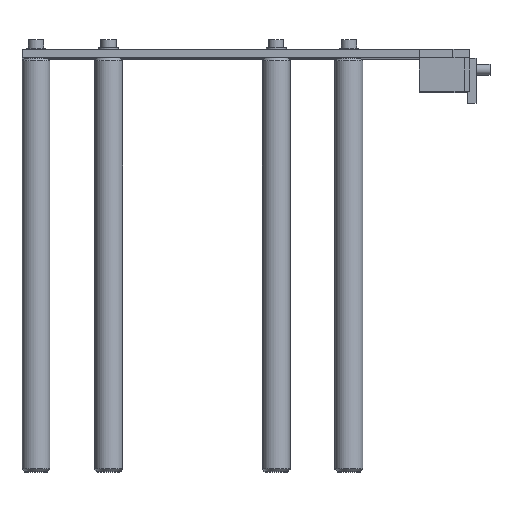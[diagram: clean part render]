
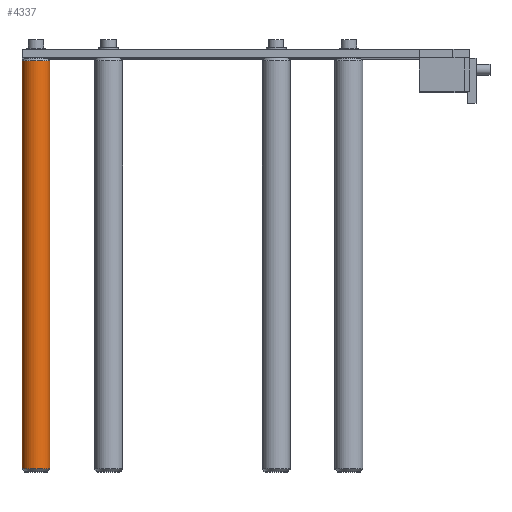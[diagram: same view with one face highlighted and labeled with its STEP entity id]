
A CAD part, top view. The second image highlights one B-rep face of the part: STEP entity #4337.
In plain terms, the highlighted cylindrical face has radius 5 mm (diameter 10 mm), a full revolution.
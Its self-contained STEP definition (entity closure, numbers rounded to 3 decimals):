
#4337 = ADVANCED_FACE('',(#4338),#4352,.T.);
#4338 = FACE_BOUND('',#4339,.T.);
#4339 = EDGE_LOOP('',(#4340,#4370,#4397,#4398));
#4340 = ORIENTED_EDGE('',*,*,#4341,.T.);
#4341 = EDGE_CURVE('',#4342,#4344,#4346,.T.);
#4342 = VERTEX_POINT('',#4343);
#4343 = CARTESIAN_POINT('',(6.,-145.,65.));
#4344 = VERTEX_POINT('',#4345);
#4345 = CARTESIAN_POINT('',(6.,1.,65.));
#4346 = SEAM_CURVE('',#4347,(#4351,#4363),.PCURVE_S1.);
#4347 = LINE('',#4348,#4349);
#4348 = CARTESIAN_POINT('',(6.,-146.,65.));
#4349 = VECTOR('',#4350,1.);
#4350 = DIRECTION('',(0.,1.,0.));
#4351 = PCURVE('',#4352,#4357);
#4352 = CYLINDRICAL_SURFACE('',#4353,5.);
#4353 = AXIS2_PLACEMENT_3D('',#4354,#4355,#4356);
#4354 = CARTESIAN_POINT('',(6.,-146.,60.));
#4355 = DIRECTION('',(0.,1.,0.));
#4356 = DIRECTION('',(0.,-0.,1.));
#4357 = DEFINITIONAL_REPRESENTATION('',(#4358),#4362);
#4358 = LINE('',#4359,#4360);
#4359 = CARTESIAN_POINT('',(6.283,-0.));
#4360 = VECTOR('',#4361,1.);
#4361 = DIRECTION('',(0.,1.));
#4362 = ( GEOMETRIC_REPRESENTATION_CONTEXT(2) 
PARAMETRIC_REPRESENTATION_CONTEXT() REPRESENTATION_CONTEXT('2D SPACE',''
  ) );
#4363 = PCURVE('',#4352,#4364);
#4364 = DEFINITIONAL_REPRESENTATION('',(#4365),#4369);
#4365 = LINE('',#4366,#4367);
#4366 = CARTESIAN_POINT('',(0.,-0.));
#4367 = VECTOR('',#4368,1.);
#4368 = DIRECTION('',(0.,1.));
#4369 = ( GEOMETRIC_REPRESENTATION_CONTEXT(2) 
PARAMETRIC_REPRESENTATION_CONTEXT() REPRESENTATION_CONTEXT('2D SPACE',''
  ) );
#4370 = ORIENTED_EDGE('',*,*,#4371,.F.);
#4371 = EDGE_CURVE('',#4344,#4344,#4372,.T.);
#4372 = SURFACE_CURVE('',#4373,(#4378,#4385),.PCURVE_S1.);
#4373 = CIRCLE('',#4374,5.);
#4374 = AXIS2_PLACEMENT_3D('',#4375,#4376,#4377);
#4375 = CARTESIAN_POINT('',(6.,1.,60.));
#4376 = DIRECTION('',(0.,1.,0.));
#4377 = DIRECTION('',(0.,-0.,1.));
#4378 = PCURVE('',#4352,#4379);
#4379 = DEFINITIONAL_REPRESENTATION('',(#4380),#4384);
#4380 = LINE('',#4381,#4382);
#4381 = CARTESIAN_POINT('',(0.,147.));
#4382 = VECTOR('',#4383,1.);
#4383 = DIRECTION('',(1.,0.));
#4384 = ( GEOMETRIC_REPRESENTATION_CONTEXT(2) 
PARAMETRIC_REPRESENTATION_CONTEXT() REPRESENTATION_CONTEXT('2D SPACE',''
  ) );
#4385 = PCURVE('',#4386,#4391);
#4386 = CONICAL_SURFACE('',#4387,5.,0.785);
#4387 = AXIS2_PLACEMENT_3D('',#4388,#4389,#4390);
#4388 = CARTESIAN_POINT('',(6.,1.,60.));
#4389 = DIRECTION('',(-0.,-1.,-0.));
#4390 = DIRECTION('',(0.,0.,1.));
#4391 = DEFINITIONAL_REPRESENTATION('',(#4392),#4396);
#4392 = LINE('',#4393,#4394);
#4393 = CARTESIAN_POINT('',(-0.,-0.));
#4394 = VECTOR('',#4395,1.);
#4395 = DIRECTION('',(-1.,-0.));
#4396 = ( GEOMETRIC_REPRESENTATION_CONTEXT(2) 
PARAMETRIC_REPRESENTATION_CONTEXT() REPRESENTATION_CONTEXT('2D SPACE',''
  ) );
#4397 = ORIENTED_EDGE('',*,*,#4341,.F.);
#4398 = ORIENTED_EDGE('',*,*,#4399,.T.);
#4399 = EDGE_CURVE('',#4342,#4342,#4400,.T.);
#4400 = SURFACE_CURVE('',#4401,(#4406,#4413),.PCURVE_S1.);
#4401 = CIRCLE('',#4402,5.);
#4402 = AXIS2_PLACEMENT_3D('',#4403,#4404,#4405);
#4403 = CARTESIAN_POINT('',(6.,-145.,60.));
#4404 = DIRECTION('',(0.,1.,0.));
#4405 = DIRECTION('',(0.,-0.,1.));
#4406 = PCURVE('',#4352,#4407);
#4407 = DEFINITIONAL_REPRESENTATION('',(#4408),#4412);
#4408 = LINE('',#4409,#4410);
#4409 = CARTESIAN_POINT('',(0.,1.));
#4410 = VECTOR('',#4411,1.);
#4411 = DIRECTION('',(1.,0.));
#4412 = ( GEOMETRIC_REPRESENTATION_CONTEXT(2) 
PARAMETRIC_REPRESENTATION_CONTEXT() REPRESENTATION_CONTEXT('2D SPACE',''
  ) );
#4413 = PCURVE('',#4414,#4419);
#4414 = CONICAL_SURFACE('',#4415,5.,0.785);
#4415 = AXIS2_PLACEMENT_3D('',#4416,#4417,#4418);
#4416 = CARTESIAN_POINT('',(6.,-145.,60.));
#4417 = DIRECTION('',(0.,1.,0.));
#4418 = DIRECTION('',(0.,-0.,1.));
#4419 = DEFINITIONAL_REPRESENTATION('',(#4420),#4424);
#4420 = LINE('',#4421,#4422);
#4421 = CARTESIAN_POINT('',(0.,-0.));
#4422 = VECTOR('',#4423,1.);
#4423 = DIRECTION('',(1.,-0.));
#4424 = ( GEOMETRIC_REPRESENTATION_CONTEXT(2) 
PARAMETRIC_REPRESENTATION_CONTEXT() REPRESENTATION_CONTEXT('2D SPACE',''
  ) );
